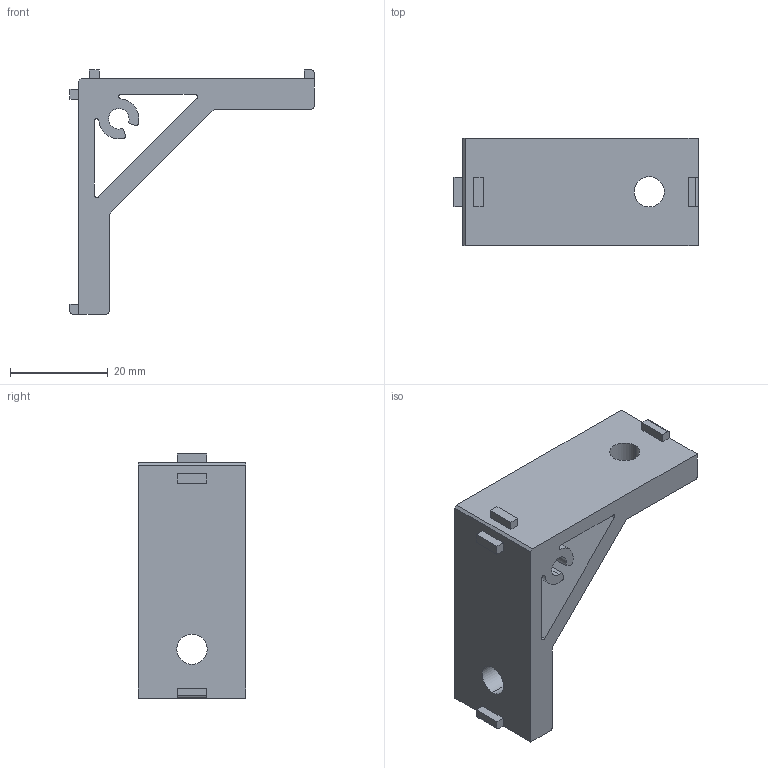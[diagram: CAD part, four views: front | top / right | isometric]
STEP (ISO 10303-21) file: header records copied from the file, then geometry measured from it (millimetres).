
FILE_DESCRIPTION (( 'STEP AP214' ), '1' );
FILE_NAME ('SMBD3-4040.STEP', '2019-11-21T06:17:59', ( '微软用户' ), ( '微软中国' ), 'SwSTEP 2.0', 'SolidWorks 2016', '' );
FILE_SCHEMA (( 'AUTOMOTIVE_DESIGN' ));
Length unit declared in the file: millimetre
Products named in the file (1): SMBD3-4040
Bounding box: 50 x 22 x 50 mm (x, y, z)
Volume: 12870.4 mm3; surface area: 7452 mm2
Topology: 1 solids, 1 shells, 54 faces, 150 edges, 100 vertices
Faces by surface type: plane 33, cylinder 21
Entity records: 1782 total; most frequent: CARTESIAN_POINT 305, DIRECTION 302, ORIENTED_EDGE 300, EDGE_CURVE 150, VECTOR 108, LINE 108, VERTEX_POINT 100, AXIS2_PLACEMENT_3D 97
